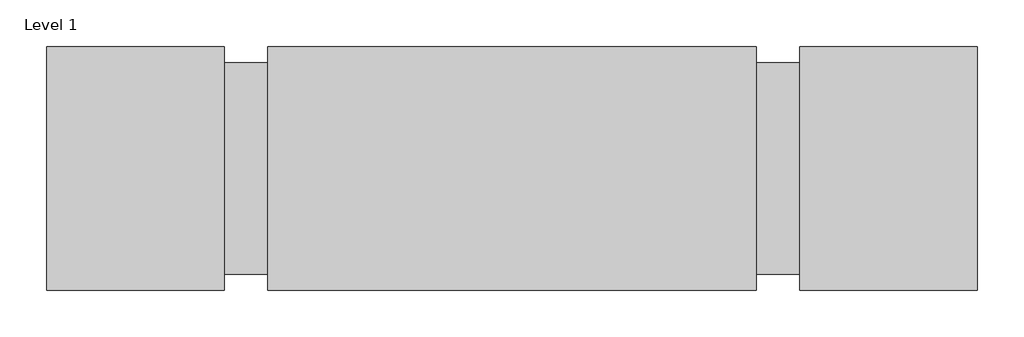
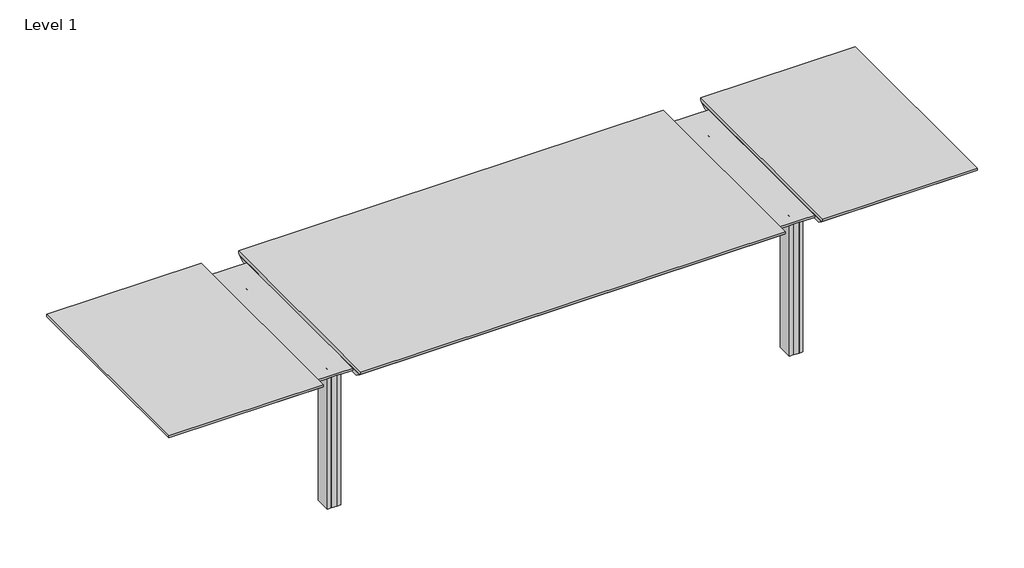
# One storey, incomplete: 29 proxies.
"""IFC4 building model written with IfcOpenShell, lengths in millimetres."""

from ifc_helpers import new_model, si_unit, origin, place, context, project, spatial, transform, mapped, element, save
from components import generic_models_d035bedb, generic_models_8838b61d, generic_models_7aa05ec4, generic_models_1af95a07, generic_models_b7c8a502, generic_models_4a0a30e6, generic_models_515dab43, generic_models_c3a2662e, generic_models_2258bc46, iso_7089_8_140_hv_1_d5703aaf, iso_7380_1_m8_x_25_17dd2121

model = new_model("IFC4")

# Units and contexts
model_context = context("Model", 3, world=origin())
ifc_project = project(units=[si_unit("LENGTHUNIT", "METRE", prefix="MILLI")], contexts=[model_context])

# Site, building, storey
site = spatial("IfcSite", under=ifc_project)
building = spatial("IfcBuilding", under=site)
storey = spatial("IfcBuildingStorey", under=building, Name="Level 1", Elevation=0.0)

# Proxies
placement = place(None, origin())
generic_models_shape = generic_models_d035bedb(model_context)
element("IfcBuildingElementProxy", 1, Name="MK-TA24-ZAFE-VA1-WD", ObjectType="MK-TA24-ZAFE-VA1-WD", at=placement, inside=storey, context=model_context, shape_type="MappedRepresentation", body=[
    mapped(generic_models_shape, transform((1095.2807022, 0.7243304, 687.0), x_axis=(-0.34202014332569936, -0.9396926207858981, 0.0), y_axis=(0.0, 0.0, 0.999999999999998), z_axis=(-0.9396926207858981, 0.34202014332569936, 0.0))),
])
element("IfcBuildingElementProxy", 2, Name="MK-TA24-ZAFE-VA1-WD", ObjectType="MK-TA24-ZAFE-VA1-WD", at=placement, inside=storey, context=model_context, shape_type="MappedRepresentation", body=[
    mapped(generic_models_shape, transform((-1304.7192978, 0.7243304, 687.0), x_axis=(-0.34202014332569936, -0.9396926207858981, 0.0), y_axis=(0.0, 0.0, 0.999999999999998), z_axis=(-0.9396926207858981, 0.34202014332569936, 0.0))),
])
element("IfcBuildingElementProxy", 3, Name="MK-TA24-ZAFE-VA1-WD", ObjectType="MK-TA24-ZAFE-VA1-WD", at=placement, inside=storey, context=model_context, shape_type="MappedRepresentation", body=[
    mapped(generic_models_shape, transform((-1095.2807022, -0.7243304, 687.0), x_axis=(0.34202014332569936, 0.9396926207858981, 0.0), y_axis=(0.0, 0.0, 0.999999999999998), z_axis=(0.9396926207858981, -0.34202014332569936, 0.0))),
])
element("IfcBuildingElementProxy", 4, Name="MK-TA24-ZAFE-VA1-WD", ObjectType="MK-TA24-ZAFE-VA1-WD", at=placement, inside=storey, context=model_context, shape_type="MappedRepresentation", body=[
    mapped(generic_models_shape, transform((1304.7192978, -0.7243304, 687.0), x_axis=(0.34202014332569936, 0.9396926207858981, 0.0), y_axis=(0.0, 0.0, 0.999999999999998), z_axis=(0.9396926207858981, -0.34202014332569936, 0.0))),
])
generic_models_2_shape = generic_models_8838b61d(model_context)
element("IfcBuildingElementProxy", 5, Name="MK-TA24-MEFE-007-WD", ObjectType="MK-TA24-MEFE-007-WD", at=placement, inside=storey, context=model_context, shape_type="MappedRepresentation", body=[
    mapped(generic_models_2_shape, transform((-1200.0, 384.25, 689.5), x_axis=(-1.0, 0.0, 0.0), y_axis=(0.0, 0.0, 1.0), z_axis=(0.0, 1.0, 0.0))),
])
element("IfcBuildingElementProxy", 6, Name="MK-TA24-MEFE-007-WD", ObjectType="MK-TA24-MEFE-007-WD", at=placement, inside=storey, context=model_context, shape_type="MappedRepresentation", body=[
    mapped(generic_models_2_shape, transform((-1200.0, -384.25, 689.5), x_axis=(1.0, 0.0, 0.0), y_axis=(0.0, 0.0, 1.0), z_axis=(0.0, -1.0, 0.0))),
])
generic_models_3_shape = generic_models_7aa05ec4(model_context)
element("IfcBuildingElementProxy", 7, Name="MK-TA24-ZAFE-S02-WD", ObjectType="MK-TA24-ZAFE-S02-WD", at=placement, inside=storey, context=model_context, shape_type="MappedRepresentation", body=[
    mapped(generic_models_3_shape, transform((1200.0, 457.5, 717.0), x_axis=(0.0, -1.0, 0.0), y_axis=(-1.0, 0.0, 0.0), z_axis=(0.0, 0.0, -1.0))),
])
generic_models_4_shape = generic_models_1af95a07(model_context)
element("IfcBuildingElementProxy", 8, Name="MK-TA24-STON-9T1-WD", ObjectType="MK-TA24-STON-9T1-WD", at=placement, inside=storey, context=model_context, shape_type="MappedRepresentation", body=[
    mapped(generic_models_4_shape, transform((0.0, 0.0, 0.0), x_axis=(1.0, 0.0, 0.0), y_axis=(0.0, 0.0, 1.0), z_axis=(0.0, -1.0, 0.0))),
])
generic_models_5_shape = generic_models_b7c8a502(model_context)
element("IfcBuildingElementProxy", 9, Name="MK-TA24-STON-9T2-WD", ObjectType="MK-TA24-STON-9T2-WD", at=placement, inside=storey, context=model_context, shape_type="MappedRepresentation", body=[
    mapped(generic_models_5_shape, transform((0.0, 0.0, 0.0), x_axis=(1.0, 0.0, 0.0), y_axis=(0.0, 0.0, 1.0), z_axis=(0.0, -1.0, 0.0))),
])
generic_models_6_shape = generic_models_4a0a30e6(model_context)
element("IfcBuildingElementProxy", 10, Name="MK-TA24-STON-9T3-WD", ObjectType="MK-TA24-STON-9T3-WD", at=placement, inside=storey, context=model_context, shape_type="MappedRepresentation", body=[
    mapped(generic_models_6_shape, transform((0.0, 0.0, 0.0), x_axis=(1.0, 0.0, 0.0), y_axis=(0.0, 0.0, 1.0), z_axis=(0.0, -1.0, 0.0))),
])
generic_models_7_shape = generic_models_515dab43(model_context)
element("IfcBuildingElementProxy", 11, Name="MK-TA24-ZAFE-T01-WD", ObjectType="MK-TA24-ZAFE-T01-WD", at=placement, inside=storey, context=model_context, shape_type="MappedRepresentation", body=[
    mapped(generic_models_7_shape, transform((0.0, 0.0, 0.0), x_axis=(1.0, 0.0, 0.0), y_axis=(0.0, 0.0, 1.0), z_axis=(0.0, -1.0, 0.0))),
])
generic_models_8_shape = generic_models_c3a2662e(model_context)
element("IfcBuildingElementProxy", 12, Name="MK-TA24-ZAFE-T02-WD", ObjectType="MK-TA24-ZAFE-T02-WD", at=placement, inside=storey, context=model_context, shape_type="MappedRepresentation", body=[
    mapped(generic_models_8_shape, transform((0.0, 0.0, 0.0), x_axis=(1.0, 0.0, 0.0), y_axis=(0.0, 0.0, 1.0), z_axis=(0.0, -1.0, 0.0))),
])
generic_models_9_shape = generic_models_2258bc46(model_context)
element("IfcBuildingElementProxy", 13, Name="MK-TA24-ZAFE-S01-WD", ObjectType="MK-TA24-ZAFE-S01-WD", at=placement, inside=storey, context=model_context, shape_type="MappedRepresentation", body=[
    mapped(generic_models_9_shape, transform((-1200.0, 457.5, 717.0), x_axis=(0.0, -1.0, 0.0), y_axis=(-1.0, 0.0, 0.0), z_axis=(0.0, 0.0, -1.0))),
])
iso_7089_8_140_hv_1_shape = iso_7089_8_140_hv_1_d5703aaf(model_context)
element("IfcBuildingElementProxy", 14, Name="ISO 7089 - 8 - 140 HV(1)", ObjectType="ISO 7089 - 8 - 140 HV(1)", at=placement, inside=storey, context=model_context, shape_type="MappedRepresentation", body=[
    mapped(iso_7089_8_140_hv_1_shape, transform((-1225.0, 361.4, 674.0), x_axis=(0.0, 1.0, 0.0), y_axis=(0.0, 0.0, -1.0), z_axis=(-1.0, 0.0, 0.0))),
])
element("IfcBuildingElementProxy", 15, Name="ISO 7089 - 8 - 140 HV(1)", ObjectType="ISO 7089 - 8 - 140 HV(1)", at=placement, inside=storey, context=model_context, shape_type="MappedRepresentation", body=[
    mapped(iso_7089_8_140_hv_1_shape, transform((1225.0, -361.4, 674.0), x_axis=(0.0, -1.0, 0.0), y_axis=(0.0, 0.0, 1.0), z_axis=(-1.0, 0.0, 0.0))),
])
element("IfcBuildingElementProxy", 16, Name="ISO 7089 - 8 - 140 HV(1)", ObjectType="ISO 7089 - 8 - 140 HV(1)", at=placement, inside=storey, context=model_context, shape_type="MappedRepresentation", body=[
    mapped(iso_7089_8_140_hv_1_shape, transform((1175.0, -361.4, 674.0), x_axis=(0.0, -1.0, 0.0), y_axis=(0.0, 0.0, 1.0), z_axis=(-1.0, 0.0, 0.0))),
])
element("IfcBuildingElementProxy", 17, Name="ISO 7089 - 8 - 140 HV(1)", ObjectType="ISO 7089 - 8 - 140 HV(1)", at=placement, inside=storey, context=model_context, shape_type="MappedRepresentation", body=[
    mapped(iso_7089_8_140_hv_1_shape, transform((-1175.0, -361.4, 674.0), x_axis=(0.0, -1.0, 0.0), y_axis=(0.0, 0.0, 1.0), z_axis=(-1.0, 0.0, 0.0))),
])
element("IfcBuildingElementProxy", 18, Name="ISO 7089 - 8 - 140 HV(1)", ObjectType="ISO 7089 - 8 - 140 HV(1)", at=placement, inside=storey, context=model_context, shape_type="MappedRepresentation", body=[
    mapped(iso_7089_8_140_hv_1_shape, transform((1175.0, 361.4, 674.0), x_axis=(0.0, 1.0, 0.0), y_axis=(0.0, 0.0, -1.0), z_axis=(-1.0, 0.0, 0.0))),
])
element("IfcBuildingElementProxy", 19, Name="ISO 7089 - 8 - 140 HV(1)", ObjectType="ISO 7089 - 8 - 140 HV(1)", at=placement, inside=storey, context=model_context, shape_type="MappedRepresentation", body=[
    mapped(iso_7089_8_140_hv_1_shape, transform((1225.0, 361.4, 674.0), x_axis=(0.0, 1.0, 0.0), y_axis=(0.0, 0.0, -1.0), z_axis=(-1.0, 0.0, 0.0))),
])
element("IfcBuildingElementProxy", 20, Name="ISO 7089 - 8 - 140 HV(1)", ObjectType="ISO 7089 - 8 - 140 HV(1)", at=placement, inside=storey, context=model_context, shape_type="MappedRepresentation", body=[
    mapped(iso_7089_8_140_hv_1_shape, transform((-1225.0, -361.4, 674.0), x_axis=(0.0, -1.0, 0.0), y_axis=(0.0, 0.0, 1.0), z_axis=(-1.0, 0.0, 0.0))),
])
element("IfcBuildingElementProxy", 21, Name="ISO 7089 - 8 - 140 HV(1)", ObjectType="ISO 7089 - 8 - 140 HV(1)", at=placement, inside=storey, context=model_context, shape_type="MappedRepresentation", body=[
    mapped(iso_7089_8_140_hv_1_shape, transform((-1175.0, 361.4, 674.0), x_axis=(0.0, 1.0, 0.0), y_axis=(0.0, 0.0, -1.0), z_axis=(-1.0, 0.0, 0.0))),
])
iso_7380_1_m8_x_25_shape = iso_7380_1_m8_x_25_17dd2121(model_context)
element("IfcBuildingElementProxy", 22, Name="ISO 7380-1 - M8 x 25", ObjectType="ISO 7380-1 - M8 x 25", at=placement, inside=storey, context=model_context, shape_type="MappedRepresentation", body=[
    mapped(iso_7380_1_m8_x_25_shape, transform((-1225.0, -361.4, 674.0), x_axis=(0.0, -1.0, 0.0), y_axis=(0.0, 0.0, 1.0), z_axis=(-1.0, 0.0, 0.0))),
])
element("IfcBuildingElementProxy", 23, Name="ISO 7380-1 - M8 x 25", ObjectType="ISO 7380-1 - M8 x 25", at=placement, inside=storey, context=model_context, shape_type="MappedRepresentation", body=[
    mapped(iso_7380_1_m8_x_25_shape, transform((1175.0, 361.4, 674.0), x_axis=(0.0, 1.0, 0.0), y_axis=(0.0, 0.0, -1.0), z_axis=(-1.0, 0.0, 0.0))),
])
element("IfcBuildingElementProxy", 24, Name="ISO 7380-1 - M8 x 25", ObjectType="ISO 7380-1 - M8 x 25", at=placement, inside=storey, context=model_context, shape_type="MappedRepresentation", body=[
    mapped(iso_7380_1_m8_x_25_shape, transform((1225.0, -361.4, 674.0), x_axis=(0.0, -1.0, 0.0), y_axis=(0.0, 0.0, 1.0), z_axis=(-1.0, 0.0, 0.0))),
])
element("IfcBuildingElementProxy", 25, Name="ISO 7380-1 - M8 x 25", ObjectType="ISO 7380-1 - M8 x 25", at=placement, inside=storey, context=model_context, shape_type="MappedRepresentation", body=[
    mapped(iso_7380_1_m8_x_25_shape, transform((-1175.0, 361.4, 674.0), x_axis=(0.0, 1.0, 0.0), y_axis=(0.0, 0.0, -1.0), z_axis=(-1.0, 0.0, 0.0))),
])
element("IfcBuildingElementProxy", 26, Name="ISO 7380-1 - M8 x 25", ObjectType="ISO 7380-1 - M8 x 25", at=placement, inside=storey, context=model_context, shape_type="MappedRepresentation", body=[
    mapped(iso_7380_1_m8_x_25_shape, transform((-1175.0, -361.4, 674.0), x_axis=(0.0, -1.0, 0.0), y_axis=(0.0, 0.0, 1.0), z_axis=(-1.0, 0.0, 0.0))),
])
element("IfcBuildingElementProxy", 27, Name="ISO 7380-1 - M8 x 25", ObjectType="ISO 7380-1 - M8 x 25", at=placement, inside=storey, context=model_context, shape_type="MappedRepresentation", body=[
    mapped(iso_7380_1_m8_x_25_shape, transform((-1225.0, 361.4, 674.0), x_axis=(0.0, 1.0, 0.0), y_axis=(0.0, 0.0, -1.0), z_axis=(-1.0, 0.0, 0.0))),
])
element("IfcBuildingElementProxy", 28, Name="ISO 7380-1 - M8 x 25", ObjectType="ISO 7380-1 - M8 x 25", at=placement, inside=storey, context=model_context, shape_type="MappedRepresentation", body=[
    mapped(iso_7380_1_m8_x_25_shape, transform((1225.0, 361.4, 674.0), x_axis=(0.0, 1.0, 0.0), y_axis=(0.0, 0.0, -1.0), z_axis=(-1.0, 0.0, 0.0))),
])
element("IfcBuildingElementProxy", 29, Name="ISO 7380-1 - M8 x 25", ObjectType="ISO 7380-1 - M8 x 25", at=placement, inside=storey, context=model_context, shape_type="MappedRepresentation", body=[
    mapped(iso_7380_1_m8_x_25_shape, transform((1175.0, -361.4, 674.0), x_axis=(0.0, -1.0, 0.0), y_axis=(0.0, 0.0, 1.0), z_axis=(-1.0, 0.0, 0.0))),
])

save(model, "model.ifc")
